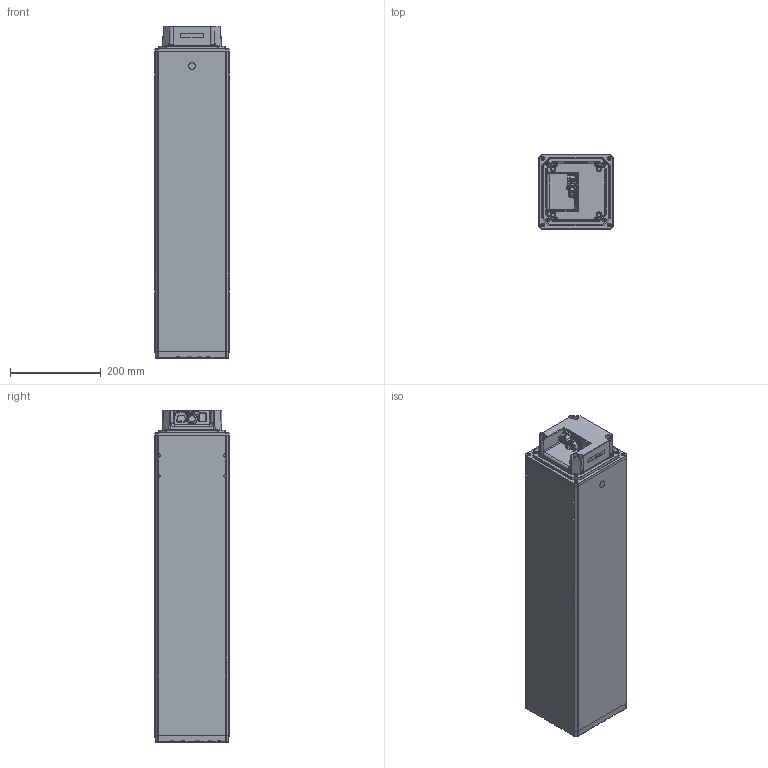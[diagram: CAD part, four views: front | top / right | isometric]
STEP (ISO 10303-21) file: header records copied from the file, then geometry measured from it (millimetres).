
FILE_DESCRIPTION((''),'2;1');
FILE_NAME('ASM0001_ASM','2025-02-10T13:34:02',('maho'),(''),'CREO PARAMETRIC BY PTC INC, 2022024','CREO PARAMETRIC BY PTC INC, 2022024','');
FILE_SCHEMA(('AUTOMOTIVE_DESIGN { 1 0 10303 214 1 1 1 1 }'));
Products named in the file (19): 0002601_1_1_2_3_4_5_6_7_8_1_1; 1002W4025_ASM_1_1_2_3_4_5_6_7_1_ASM; 0002002_1_1_2_3_4_5_6_7_8_1_1; 1002W4019_ASM_1_1_2_3_4_5_6_7_1_ASM; 1002W4003__1_1_2_3_4_5_6_7_8__1; 1002W4004__1_1_2_3_4_5_6_7_8__1; 1002W4005__1_1_2_3_4_5_6_7_8__1; 1002W4006_1_1_2_3_4_5_6_7_8_1_1; 1002W4007_1_1_2_3_4_5_6_7_8_1_1; 1002W4012_1_1_2_3_4_5_6_7_8_1_1; TEC-0003335_1_1_2_3_4_5_6_7_8_2; TEC-0001926_1_1_2_3_4_5_6_7_8_2; TEC-0003336_1_1_2_3_4_5_6_7_8_2; TEC-0001888_ASM_1_1_2_3_4_5_6_1_ASM; NUT_FOR_PROFILE_HOLE_1_1; 0002068_1_1; BID730_ASM_1_1_ASM; 1002W1392; ASM0001_ASM
Assembly tree (43 placements, depth 5):
  ASM0001_ASM
    BID730_ASM_1_1_ASM
      TEC-0001888_ASM_1_1_2_3_4_5_6_1_ASM
        1002W4025_ASM_1_1_2_3_4_5_6_7_1_ASM
          0002601_1_1_2_3_4_5_6_7_8_1_1  x6
        1002W4019_ASM_1_1_2_3_4_5_6_7_1_ASM
          0002002_1_1_2_3_4_5_6_7_8_1_1  x6
          0002601_1_1_2_3_4_5_6_7_8_1_1  x12
        1002W4003__1_1_2_3_4_5_6_7_8__1
        1002W4004__1_1_2_3_4_5_6_7_8__1
        1002W4005__1_1_2_3_4_5_6_7_8__1
        1002W4006_1_1_2_3_4_5_6_7_8_1_1
        1002W4007_1_1_2_3_4_5_6_7_8_1_1
        1002W4012_1_1_2_3_4_5_6_7_8_1_1
        TEC-0003335_1_1_2_3_4_5_6_7_8_2
        TEC-0001926_1_1_2_3_4_5_6_7_8_2
        TEC-0003336_1_1_2_3_4_5_6_7_8_2  x3
      NUT_FOR_PROFILE_HOLE_1_1
      0002068_1_1
    1002W1392
    0002068_1_1
Bounding box: 163 x 163.04 x 730 mm (x, y, z)
Surface area: 1708266.1 mm2
Topology: 39 solids, 40 shells, 2516 faces, 6973 edges, 4549 vertices
Faces by surface type: cylinder 1108, plane 638, cone 314, torus 216, bspline 194, sphere 46
Entity records: 71843 total; most frequent: CARTESIAN_POINT 24383, DIRECTION 9504, ORIENTED_EDGE 9196, EDGE_CURVE 4598, AXIS2_PLACEMENT_3D 3848, VERTEX_POINT 2989, CIRCLE 2174, EDGE_LOOP 1833
